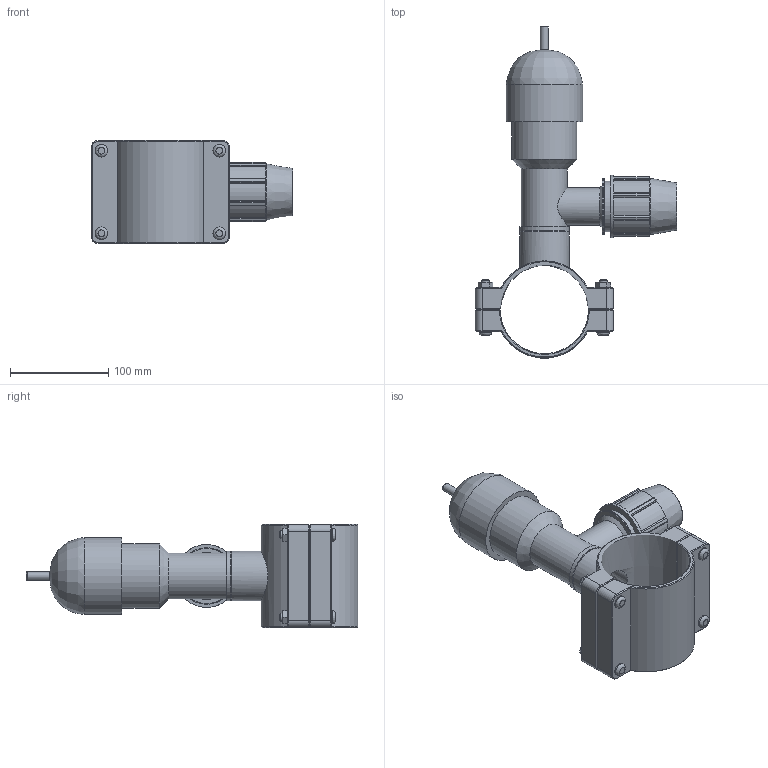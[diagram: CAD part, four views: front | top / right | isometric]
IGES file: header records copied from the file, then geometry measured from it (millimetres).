
Global section: file name: 186800090032.ipt; native system: Autodesk Inventor 2015; preprocessor: unknown; author: KIM; date: 20170618.094020; units: millimetre
Bounding box: 205.5 x 338.32 x 105 mm (x, y, z)
Volume: 1001206.7 mm3; surface area: 188813.9 mm2
Topology: 1 solids, 1 shells, 224 faces, 557 edges, 361 vertices
Faces by surface type: plane 133, cylinder 43, cone 29, revolution 19
Full cylindrical faces by diameter (mm): 8 x4, 8.19 x1, 13 x8, 38.4 x1, 38.952 x1, 46.742 x1, 50.638 x2, 51.2 x1, 57.6 x1, 64 x1, 66.218 x1, 77.904 x1
